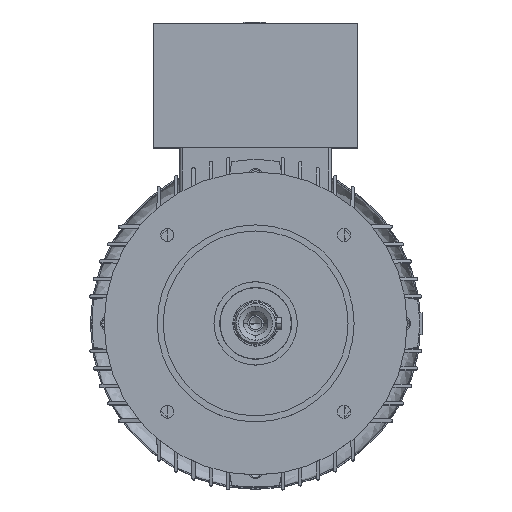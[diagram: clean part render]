
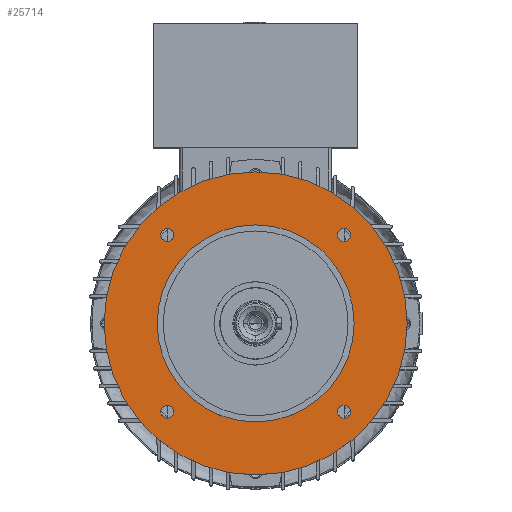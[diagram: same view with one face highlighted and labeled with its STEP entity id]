
A CAD part, top view. The second image highlights one B-rep face of the part: STEP entity #25714.
In plain terms, the highlighted planar face has unit normal (0, 0, 1).
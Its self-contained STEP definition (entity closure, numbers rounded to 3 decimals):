
#80 = AXIS2_PLACEMENT_3D ( 'NONE', #18285, #18412, #13054 ) ;
#370 = DIRECTION ( 'NONE',  ( 0., 0., 1. ) ) ;
#582 = CARTESIAN_POINT ( 'NONE',  ( -65., 0., 140. ) ) ;
#583 = EDGE_CURVE ( 'NONE', #3837, #19180, #8017, .T. ) ;
#1060 = VERTEX_POINT ( 'NONE', #12546 ) ;
#1956 = VERTEX_POINT ( 'NONE', #11919 ) ;
#2033 = DIRECTION ( 'NONE',  ( 1., 0., 0. ) ) ;
#2510 = DIRECTION ( 'NONE',  ( 0., 0., 1. ) ) ;
#2795 = CIRCLE ( 'NONE', #12281, 4.25 ) ;
#3019 = EDGE_CURVE ( 'NONE', #33162, #12149, #27212, .T. ) ;
#3432 = DIRECTION ( 'NONE',  ( 0., 0., 1. ) ) ;
#3792 = CIRCLE ( 'NONE', #13664, 4.25 ) ;
#3837 = VERTEX_POINT ( 'NONE', #15947 ) ;
#4355 = VERTEX_POINT ( 'NONE', #4625 ) ;
#4625 = CARTESIAN_POINT ( 'NONE',  ( 62.586, -58.336, 140. ) ) ;
#4807 = AXIS2_PLACEMENT_3D ( 'NONE', #31178, #14787, #9419 ) ;
#5103 = CIRCLE ( 'NONE', #25636, 100. ) ;
#5223 = DIRECTION ( 'NONE',  ( 1., 0., 0. ) ) ;
#5695 = DIRECTION ( 'NONE',  ( 0., 0., -1. ) ) ;
#5799 = EDGE_CURVE ( 'NONE', #4355, #6121, #3792, .T. ) ;
#6121 = VERTEX_POINT ( 'NONE', #27888 ) ;
#6606 = ORIENTED_EDGE ( 'NONE', *, *, #5799, .F. ) ;
#6695 = DIRECTION ( 'NONE',  ( 1., 0., 0. ) ) ;
#6741 = DIRECTION ( 'NONE',  ( 0., 0., 1. ) ) ;
#7149 = ORIENTED_EDGE ( 'NONE', *, *, #21644, .F. ) ;
#7377 = DIRECTION ( 'NONE',  ( 1., 0., 0. ) ) ;
#7464 = AXIS2_PLACEMENT_3D ( 'NONE', #9776, #28688, #12529 ) ;
#7818 = CARTESIAN_POINT ( 'NONE',  ( -58.336, -58.336, 140. ) ) ;
#8017 = CIRCLE ( 'NONE', #13927, 4.25 ) ;
#8126 = ORIENTED_EDGE ( 'NONE', *, *, #8232, .F. ) ;
#8232 = EDGE_CURVE ( 'NONE', #6121, #4355, #34480, .T. ) ;
#8565 = CARTESIAN_POINT ( 'NONE',  ( 65., 0., 140. ) ) ;
#8768 = CARTESIAN_POINT ( 'NONE',  ( 0., 0., 140. ) ) ;
#9419 = DIRECTION ( 'NONE',  ( 1., 0., 0. ) ) ;
#9776 = CARTESIAN_POINT ( 'NONE',  ( 0., 0., 140. ) ) ;
#10388 = AXIS2_PLACEMENT_3D ( 'NONE', #16429, #370, #27632 ) ;
#11518 = ORIENTED_EDGE ( 'NONE', *, *, #22804, .F. ) ;
#11689 = ORIENTED_EDGE ( 'NONE', *, *, #31061, .F. ) ;
#11901 = DIRECTION ( 'NONE',  ( 0., 0., 1. ) ) ;
#11919 = CARTESIAN_POINT ( 'NONE',  ( -54.086, -58.336, 140. ) ) ;
#11920 = EDGE_CURVE ( 'NONE', #19180, #3837, #20470, .T. ) ;
#12100 = FACE_OUTER_BOUND ( 'NONE', #30512, .T. ) ;
#12149 = VERTEX_POINT ( 'NONE', #23092 ) ;
#12281 = AXIS2_PLACEMENT_3D ( 'NONE', #22293, #11901, #30446 ) ;
#12528 = AXIS2_PLACEMENT_3D ( 'NONE', #15233, #26086, #6695 ) ;
#12529 = DIRECTION ( 'NONE',  ( 1., 0., 0. ) ) ;
#12546 = CARTESIAN_POINT ( 'NONE',  ( -62.586, -58.336, 140. ) ) ;
#12912 = CIRCLE ( 'NONE', #4807, 100. ) ;
#13054 = DIRECTION ( 'NONE',  ( 1., 0., 0. ) ) ;
#13664 = AXIS2_PLACEMENT_3D ( 'NONE', #28640, #18041, #7377 ) ;
#13927 = AXIS2_PLACEMENT_3D ( 'NONE', #15889, #2510, #5223 ) ;
#14571 = CIRCLE ( 'NONE', #16586, 4.25 ) ;
#14732 = VERTEX_POINT ( 'NONE', #582 ) ;
#14787 = DIRECTION ( 'NONE',  ( 0., 0., -1. ) ) ;
#15059 = FACE_BOUND ( 'NONE', #19724, .T. ) ;
#15114 = VERTEX_POINT ( 'NONE', #8565 ) ;
#15233 = CARTESIAN_POINT ( 'NONE',  ( -58.336, 58.336, 140. ) ) ;
#15548 = DIRECTION ( 'NONE',  ( 0., 0., 1. ) ) ;
#15591 = CIRCLE ( 'NONE', #18446, 4.25 ) ;
#15889 = CARTESIAN_POINT ( 'NONE',  ( -58.336, 58.336, 140. ) ) ;
#15947 = CARTESIAN_POINT ( 'NONE',  ( -54.086, 58.336, 140. ) ) ;
#16114 = EDGE_CURVE ( 'NONE', #1060, #1956, #2795, .T. ) ;
#16300 = CIRCLE ( 'NONE', #18550, 65. ) ;
#16429 = CARTESIAN_POINT ( 'NONE',  ( 58.336, 58.336, 140. ) ) ;
#16535 = EDGE_CURVE ( 'NONE', #18930, #29830, #5103, .T. ) ;
#16586 = AXIS2_PLACEMENT_3D ( 'NONE', #16810, #3432, #30386 ) ;
#16632 = EDGE_LOOP ( 'NONE', ( #7149, #24665 ) ) ;
#16810 = CARTESIAN_POINT ( 'NONE',  ( 58.336, 58.336, 140. ) ) ;
#18041 = DIRECTION ( 'NONE',  ( 0., 0., 1. ) ) ;
#18120 = CARTESIAN_POINT ( 'NONE',  ( 0., 100., 140. ) ) ;
#18285 = CARTESIAN_POINT ( 'NONE',  ( 58.336, -58.336, 140. ) ) ;
#18412 = DIRECTION ( 'NONE',  ( 0., 0., 1. ) ) ;
#18423 = ORIENTED_EDGE ( 'NONE', *, *, #19513, .F. ) ;
#18446 = AXIS2_PLACEMENT_3D ( 'NONE', #7818, #15548, #2033 ) ;
#18550 = AXIS2_PLACEMENT_3D ( 'NONE', #25896, #6741, #28697 ) ;
#18930 = VERTEX_POINT ( 'NONE', #33624 ) ;
#19180 = VERTEX_POINT ( 'NONE', #34670 ) ;
#19513 = EDGE_CURVE ( 'NONE', #15114, #14732, #30883, .T. ) ;
#19686 = CARTESIAN_POINT ( 'NONE',  ( 100., 0., 140. ) ) ;
#19724 = EDGE_LOOP ( 'NONE', ( #22105, #31884 ) ) ;
#20470 = CIRCLE ( 'NONE', #12528, 4.25 ) ;
#21644 = EDGE_CURVE ( 'NONE', #12149, #33162, #14571, .T. ) ;
#21843 = EDGE_LOOP ( 'NONE', ( #6606, #8126 ) ) ;
#22034 = EDGE_CURVE ( 'NONE', #29830, #18930, #12912, .T. ) ;
#22105 = ORIENTED_EDGE ( 'NONE', *, *, #583, .F. ) ;
#22216 = FACE_BOUND ( 'NONE', #21843, .T. ) ;
#22293 = CARTESIAN_POINT ( 'NONE',  ( -58.336, -58.336, 140. ) ) ;
#22804 = EDGE_CURVE ( 'NONE', #1956, #1060, #15591, .T. ) ;
#23092 = CARTESIAN_POINT ( 'NONE',  ( 62.586, 58.336, 140. ) ) ;
#23553 = DIRECTION ( 'NONE',  ( 0., 0., -1. ) ) ;
#23925 = FACE_BOUND ( 'NONE', #24431, .T. ) ;
#24261 = ORIENTED_EDGE ( 'NONE', *, *, #22034, .F. ) ;
#24431 = EDGE_LOOP ( 'NONE', ( #11518, #25244 ) ) ;
#24665 = ORIENTED_EDGE ( 'NONE', *, *, #3019, .F. ) ;
#25113 = AXIS2_PLACEMENT_3D ( 'NONE', #18120, #23553, #28955 ) ;
#25188 = FACE_BOUND ( 'NONE', #26021, .T. ) ;
#25244 = ORIENTED_EDGE ( 'NONE', *, *, #16114, .F. ) ;
#25636 = AXIS2_PLACEMENT_3D ( 'NONE', #8768, #5695, #27713 ) ;
#25714 = ADVANCED_FACE ( 'NONE', ( #12100, #25188, #29388, #15059, #23925, #22216 ), #33581, .F. ) ;
#25896 = CARTESIAN_POINT ( 'NONE',  ( 0., 0., 140. ) ) ;
#26021 = EDGE_LOOP ( 'NONE', ( #18423, #11689 ) ) ;
#26086 = DIRECTION ( 'NONE',  ( 0., 0., 1. ) ) ;
#26341 = ORIENTED_EDGE ( 'NONE', *, *, #16535, .F. ) ;
#27212 = CIRCLE ( 'NONE', #10388, 4.25 ) ;
#27632 = DIRECTION ( 'NONE',  ( 1., 0., 0. ) ) ;
#27713 = DIRECTION ( 'NONE',  ( 1., 0., 0. ) ) ;
#27888 = CARTESIAN_POINT ( 'NONE',  ( 54.086, -58.336, 140. ) ) ;
#28640 = CARTESIAN_POINT ( 'NONE',  ( 58.336, -58.336, 140. ) ) ;
#28688 = DIRECTION ( 'NONE',  ( 0., 0., 1. ) ) ;
#28697 = DIRECTION ( 'NONE',  ( 1., 0., 0. ) ) ;
#28955 = DIRECTION ( 'NONE',  ( -1., 0., 0. ) ) ;
#29388 = FACE_BOUND ( 'NONE', #16632, .T. ) ;
#29830 = VERTEX_POINT ( 'NONE', #19686 ) ;
#30386 = DIRECTION ( 'NONE',  ( 1., 0., 0. ) ) ;
#30446 = DIRECTION ( 'NONE',  ( 1., 0., 0. ) ) ;
#30471 = CARTESIAN_POINT ( 'NONE',  ( 54.086, 58.336, 140. ) ) ;
#30512 = EDGE_LOOP ( 'NONE', ( #24261, #26341 ) ) ;
#30883 = CIRCLE ( 'NONE', #7464, 65. ) ;
#31061 = EDGE_CURVE ( 'NONE', #14732, #15114, #16300, .T. ) ;
#31178 = CARTESIAN_POINT ( 'NONE',  ( 0., 0., 140. ) ) ;
#31884 = ORIENTED_EDGE ( 'NONE', *, *, #11920, .F. ) ;
#33162 = VERTEX_POINT ( 'NONE', #30471 ) ;
#33581 = PLANE ( 'NONE',  #25113 ) ;
#33624 = CARTESIAN_POINT ( 'NONE',  ( -100., 0., 140. ) ) ;
#34480 = CIRCLE ( 'NONE', #80, 4.25 ) ;
#34670 = CARTESIAN_POINT ( 'NONE',  ( -62.586, 58.336, 140. ) ) ;
